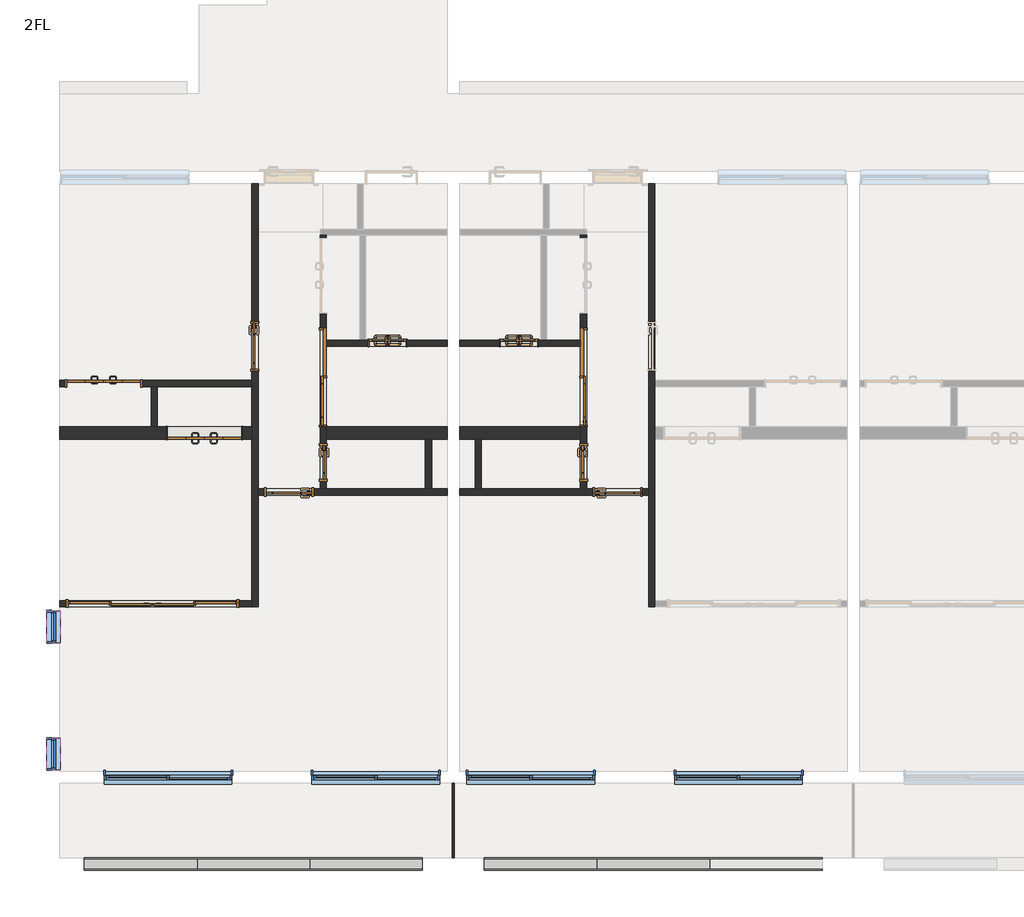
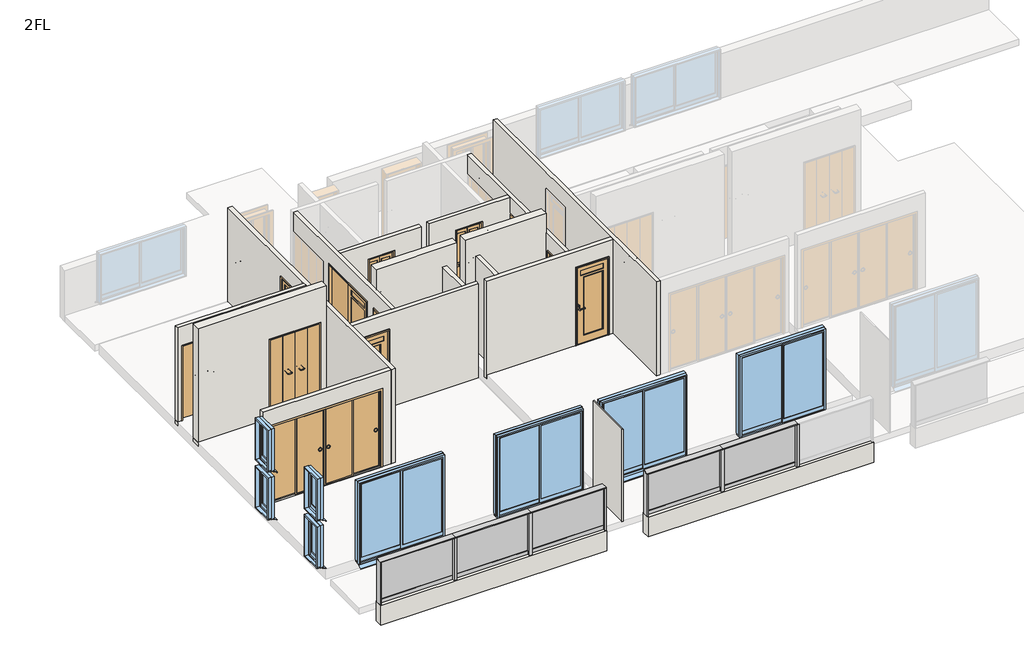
# One storey, part 1 of 3: 19 walls, 12 doors, 12 members, 8 windows, 5 plates.
"""IFC4 building model written with IfcOpenShell, lengths in millimetres."""

from ifc_helpers import new_model, si_unit, frame, origin, place, context, project, spatial, polyline, outline, extrude, faceted_brep, transform, mapped, element, save
from components import door_1200x2000_98cacc9b, door_1200x2000_6a144d60, door_1600x2000_09a7ee27, door_1600x2000_1f5bdc43, door_2800x2000_670b855b, door_600x2000_7f2747f4, door_600x2000_6a266bef, door_600x2000_8ea70a65, door_600x2000_94bb9c3c, door_800x2000_13e9f519, door_800x2000_ccb03061, member_25x150_3f8205e2, member_25x150_e252ec85, member_25x150_8b8be5b9, member_70x150_851c8a9b, plate_5aac5250, plate_977e9fc7, window_2000x2000_f1ff98da, window_450x1000_e0a5e2da, window_450x1000_1cddc73c

model = new_model("IFC4")

# Units and contexts
model_context = context("Model", 3, world=origin())
ifc_project = project(units=[si_unit("LENGTHUNIT", "METRE", prefix="MILLI")], contexts=[model_context])

# Site, building, storey
site = spatial("IfcSite", under=ifc_project)
building = spatial("IfcBuilding", under=site)
storey = spatial("IfcBuildingStorey", under=building, Name="2FL", Elevation=4000.0)

# Doors
placement = place(None, origin())
door_1200x2000_shape = door_1200x2000_98cacc9b(model_context)
element("IfcDoor", 1, ObjectType="木製折戸 : 1200x2000", at=placement, inside=storey, context=model_context, shape_type="MappedRepresentation", body=[
    mapped(door_1200x2000_shape, transform((-8741.2187246, -9820.1171638, 4100.0), x_axis=(-1.0, 0.0, 0.0), y_axis=(0.0, -1.0, 0.0), z_axis=(0.0, 0.0, 1.0))),
])
door_1200x2000_2_shape = door_1200x2000_6a144d60(model_context)
element("IfcDoor", 2, ObjectType="木製折戸 : 1200x2000", at=placement, inside=storey, context=model_context, shape_type="MappedRepresentation", body=[
    mapped(door_1200x2000_2_shape, transform((-10366.2187246, -9020.1171638, 4000.0), x_axis=(1.0, 0.0, 0.0), y_axis=(0.0, 1.0, 0.0), z_axis=(0.0, 0.0, 1.0))),
])
door_1600x2000_shape = door_1600x2000_09a7ee27(model_context)
element("IfcDoor", 3, ObjectType="片引戸CL2017 : 1600x2000", at=placement, inside=storey, context=model_context, shape_type="MappedRepresentation", body=[
    mapped(door_1600x2000_shape, transform((-6828.7187246, -8920.1171638, 4100.0), x_axis=(0.0, -1.0, 0.0), y_axis=(1.0, 0.0, 0.0), z_axis=(0.0, 0.0, 1.0))),
])
door_1600x2000_2_shape = door_1600x2000_1f5bdc43(model_context)
element("IfcDoor", 4, ObjectType="片引戸CL2017 : 1600x2000", at=placement, inside=storey, context=model_context, shape_type="MappedRepresentation", body=[
    mapped(door_1600x2000_2_shape, transform((-2628.7187246, -8920.1171638, 4100.0), x_axis=(0.0, -1.0, 0.0), y_axis=(1.0, 0.0, 0.0), z_axis=(0.0, 0.0, 1.0))),
])
door_2800x2000_shape = door_2800x2000_670b855b(model_context)
element("IfcDoor", 5, ObjectType="引違い 4 枚 2 溝_襖 : 2800x2000", at=placement, inside=storey, context=model_context, shape_type="MappedRepresentation", body=[
    mapped(door_2800x2000_shape, transform((-9573.1832207, -12570.1171638, 4100.0), x_axis=(1.0, 0.0, 0.0), y_axis=(0.0, 1.0, 0.0), z_axis=(0.0, 0.0, 1.0))),
])
door_600x2000_shape = door_600x2000_7f2747f4(model_context)
element("IfcDoor", 6, ObjectType="片開き戸CL2058 : 600x2000", at=placement, inside=storey, context=model_context, shape_type="MappedRepresentation", body=[
    mapped(door_600x2000_shape, transform((-6828.7187246, -10295.1171638, 4100.0), x_axis=(0.0, -1.0, 0.0), y_axis=(1.0, 0.0, 0.0), z_axis=(0.0, 0.0, 1.0))),
])
door_600x2000_2_shape = door_600x2000_6a266bef(model_context)
element("IfcDoor", 7, ObjectType="浴室折戸 : 600x2000", at=placement, inside=storey, context=model_context, shape_type="MappedRepresentation", body=[
    mapped(door_600x2000_2_shape, transform((-5788.7187246, -8370.1171638, 4100.0), x_axis=(1.0, 0.0, 0.0), y_axis=(0.0, 1.0, 0.0), z_axis=(0.0, 0.0, 1.0))),
])
door_600x2000_3_shape = door_600x2000_8ea70a65(model_context)
element("IfcDoor", 8, ObjectType="片開き戸CL2058 : 600x2000", at=placement, inside=storey, context=model_context, shape_type="MappedRepresentation", body=[
    mapped(door_600x2000_3_shape, transform((-2628.7187246, -10295.1171638, 4100.0), x_axis=(0.0, -1.0, 0.0), y_axis=(1.0, 0.0, 0.0), z_axis=(0.0, 0.0, 1.0))),
])
door_600x2000_4_shape = door_600x2000_94bb9c3c(model_context)
element("IfcDoor", 9, ObjectType="浴室折戸 : 600x2000", at=placement, inside=storey, context=model_context, shape_type="MappedRepresentation", body=[
    mapped(door_600x2000_4_shape, transform((-3668.7187246, -8370.1171638, 4100.0), x_axis=(-1.0, 0.0, 0.0), y_axis=(0.0, -1.0, 0.0), z_axis=(0.0, 0.0, 1.0))),
])
door_800x2000_shape = door_800x2000_13e9f519(model_context)
element("IfcDoor", 10, ObjectType="片開き戸CL2058 : 800x2000", at=placement, inside=storey, context=model_context, shape_type="MappedRepresentation", body=[
    mapped(door_800x2000_shape, transform((-7928.7187246, -8420.1171638, 4100.0), x_axis=(0.0, -1.0, 0.0), y_axis=(1.0, 0.0, 0.0), z_axis=(0.0, 0.0, 1.0))),
])
element("IfcDoor", 11, ObjectType="片開き戸CL2058 : 800x2000", at=placement, inside=storey, context=model_context, shape_type="MappedRepresentation", body=[
    mapped(door_800x2000_shape, transform((-2078.7187246, -10770.1171638, 4100.0), x_axis=(1.0, 0.0, 0.0), y_axis=(0.0, 1.0, 0.0), z_axis=(0.0, 0.0, 1.0))),
])
door_800x2000_2_shape = door_800x2000_ccb03061(model_context)
element("IfcDoor", 12, ObjectType="片開き戸CL2058 : 800x2000", at=placement, inside=storey, context=model_context, shape_type="MappedRepresentation", body=[
    mapped(door_800x2000_2_shape, transform((-7378.7187246, -10770.1171638, 4100.0), x_axis=(-1.0, 0.0, 0.0), y_axis=(0.0, -1.0, 0.0), z_axis=(0.0, 0.0, 1.0))),
])

# Members
member_25x150_shape = member_25x150_3f8205e2(model_context)
element("IfcMember", 13, ObjectType="長方形のマリオン : 25x150", at=placement, inside=storey, context=model_context, shape_type="MappedRepresentation", body=[
    mapped(member_25x150_shape, transform((-5228.7187246, -16770.1171638, 4000.0), x_axis=(1.0, 0.0, 0.0), y_axis=(0.0, -1.0, 0.0), z_axis=(0.0, 0.0, -1.0))),
])
element("IfcMember", 14, ObjectType="長方形のマリオン : 25x150", at=placement, inside=storey, context=model_context, shape_type="MappedRepresentation", body=[
    mapped(member_25x150_shape, transform((-10678.7187246, -16770.1171638, 5075.0), x_axis=(-1.0, 0.0, 0.0), y_axis=(0.0, -1.0, 0.0), z_axis=(0.0, 0.0, 1.0))),
])
element("IfcMember", 15, ObjectType="長方形のマリオン : 25x150", at=placement, inside=storey, context=model_context, shape_type="MappedRepresentation", body=[
    mapped(member_25x150_shape, transform((-4228.7187246, -16770.1171638, 5075.0), x_axis=(-1.0, 0.0, 0.0), y_axis=(0.0, -1.0, 0.0), z_axis=(0.0, 0.0, 1.0))),
])
member_25x150_2_shape = member_25x150_e252ec85(model_context)
element("IfcMember", 16, ObjectType="長方形のマリオン : 25x150", at=placement, inside=storey, context=model_context, shape_type="MappedRepresentation", body=[
    mapped(member_25x150_2_shape, transform((-5228.7187246, -16770.1171638, 5100.0), x_axis=(0.0, 0.0, 1.0), y_axis=(0.0, -1.0, 0.0), z_axis=(1.0, 0.0, 0.0))),
])
element("IfcMember", 17, ObjectType="長方形のマリオン : 25x150", at=placement, inside=storey, context=model_context, shape_type="MappedRepresentation", body=[
    mapped(member_25x150_2_shape, transform((-8862.0520579, -16770.1171638, 5100.0), x_axis=(0.0, 0.0, 1.0), y_axis=(0.0, -1.0, 0.0), z_axis=(1.0, 0.0, 0.0))),
])
element("IfcMember", 18, ObjectType="長方形のマリオン : 25x150", at=placement, inside=storey, context=model_context, shape_type="MappedRepresentation", body=[
    mapped(member_25x150_2_shape, transform((-2412.0520579, -16770.1171638, 5100.0), x_axis=(0.0, 0.0, 1.0), y_axis=(0.0, -1.0, 0.0), z_axis=(1.0, 0.0, 0.0))),
])
member_25x150_3_shape = member_25x150_8b8be5b9(model_context)
element("IfcMember", 19, ObjectType="長方形のマリオン : 25x150", at=placement, inside=storey, context=model_context, shape_type="MappedRepresentation", body=[
    mapped(member_25x150_3_shape, transform((-7045.3853914, -16770.1171638, 5100.0), x_axis=(0.0, 0.0, 1.0), y_axis=(0.0, -1.0, 0.0), z_axis=(1.0, 0.0, 0.0))),
])
element("IfcMember", 20, ObjectType="長方形のマリオン : 25x150", at=placement, inside=storey, context=model_context, shape_type="MappedRepresentation", body=[
    mapped(member_25x150_3_shape, transform((-595.3853914, -16770.1171638, 5100.0), x_axis=(0.0, 0.0, 1.0), y_axis=(0.0, -1.0, 0.0), z_axis=(1.0, 0.0, 0.0))),
])
member_70x150_shape = member_70x150_851c8a9b(model_context)
element("IfcMember", 21, ObjectType="長方形のマリオン : 70x150", at=placement, inside=storey, context=model_context, shape_type="MappedRepresentation", body=[
    mapped(member_70x150_shape, transform((-8862.0520579, -16770.1171638, 4000.0), x_axis=(1.0, 0.0, 0.0), y_axis=(0.0, -1.0, 0.0), z_axis=(0.0, 0.0, -1.0))),
])
element("IfcMember", 22, ObjectType="長方形のマリオン : 70x150", at=placement, inside=storey, context=model_context, shape_type="MappedRepresentation", body=[
    mapped(member_70x150_shape, transform((-7045.3853914, -16770.1171638, 4000.0), x_axis=(1.0, 0.0, 0.0), y_axis=(0.0, -1.0, 0.0), z_axis=(0.0, 0.0, -1.0))),
])
element("IfcMember", 23, ObjectType="長方形のマリオン : 70x150", at=placement, inside=storey, context=model_context, shape_type="MappedRepresentation", body=[
    mapped(member_70x150_shape, transform((-2412.0520579, -16770.1171638, 4000.0), x_axis=(1.0, 0.0, 0.0), y_axis=(0.0, -1.0, 0.0), z_axis=(0.0, 0.0, -1.0))),
])
element("IfcMember", 24, ObjectType="長方形のマリオン : 70x150", at=placement, inside=storey, context=model_context, shape_type="MappedRepresentation", body=[
    mapped(member_70x150_shape, transform((-595.3853914, -16770.1171638, 4000.0), x_axis=(1.0, 0.0, 0.0), y_axis=(0.0, -1.0, 0.0), z_axis=(0.0, 0.0, -1.0))),
])

# Plates
plate_shape = plate_5aac5250(model_context)
element("IfcPlate", 25, ObjectType="r パネル FIX 下框付 : 框 H100", at=placement, inside=storey, context=model_context, shape_type="MappedRepresentation", body=[
    mapped(plate_shape, transform((-9775.3853913, -16770.1171638, 4000.0), x_axis=(1.0, 0.0, 0.0), y_axis=(0.0, 1.0, 0.0), z_axis=(0.0, 0.0, 1.0))),
])
element("IfcPlate", 26, ObjectType="r パネル FIX 下框付 : 框 H100", at=placement, inside=storey, context=model_context, shape_type="MappedRepresentation", body=[
    mapped(plate_shape, transform((-6132.052058, -16770.1171638, 4000.0), x_axis=(1.0, 0.0, 0.0), y_axis=(0.0, 1.0, 0.0), z_axis=(0.0, 0.0, 1.0))),
])
element("IfcPlate", 27, ObjectType="r パネル FIX 下框付 : 框 H100", at=placement, inside=storey, context=model_context, shape_type="MappedRepresentation", body=[
    mapped(plate_shape, transform((-3325.3853913, -16770.1171638, 4000.0), x_axis=(1.0, 0.0, 0.0), y_axis=(0.0, 1.0, 0.0), z_axis=(0.0, 0.0, 1.0))),
])
plate_2_shape = plate_977e9fc7(model_context)
element("IfcPlate", 28, ObjectType="r パネル FIX 下框付 : 框 H100", at=placement, inside=storey, context=model_context, shape_type="MappedRepresentation", body=[
    mapped(plate_2_shape, transform((-7953.7187246, -16770.1171638, 4000.0), x_axis=(1.0, 0.0, 0.0), y_axis=(0.0, 1.0, 0.0), z_axis=(0.0, 0.0, 1.0))),
])
element("IfcPlate", 29, ObjectType="r パネル FIX 下框付 : 框 H100", at=placement, inside=storey, context=model_context, shape_type="MappedRepresentation", body=[
    mapped(plate_2_shape, transform((-1503.7187246, -16770.1171638, 4000.0), x_axis=(1.0, 0.0, 0.0), y_axis=(0.0, 1.0, 0.0), z_axis=(0.0, 0.0, 1.0))),
])

# Walls
element("IfcWall", 30, ObjectType="(R)RC200", at=placement, inside=storey, context=model_context, shape_type="Brep", body=[
    faceted_brep([(-11078.7187246, -9920.1171638, 4000.0), (-7978.7187246, -9920.1171638, 4000.0), (-7978.7187246, -9920.1171638, 7000.0), (-11078.7187246, -9920.1171638, 7000.0), (-9361.2187246, -9920.1171638, 6120.0), (-8121.2187246, -9920.1171638, 6120.0), (-8121.2187246, -9920.1171638, 4100.0), (-9361.2187246, -9920.1171638, 4100.0), (-11078.7187246, -9720.1171638, 4000.0), (-11078.7187246, -9720.1171638, 7000.0), (-7978.7187246, -9720.1171638, 7000.0), (-7978.7187246, -9720.1171638, 4000.0), (-9503.7187246, -9720.1171638, 4000.0), (-9603.7187246, -9720.1171638, 4000.0), (-9361.2187246, -9720.1171638, 6120.0), (-9361.2187246, -9720.1171638, 4100.0), (-8121.2187246, -9720.1171638, 4100.0), (-8121.2187246, -9720.1171638, 6120.0)], [[[0, 1, 2, 3], [4, 5, 6, 7]], [[8, 9, 10, 11, 12, 13], [14, 15, 16, 17]], [[1, 0, 8, 13, 12, 11]], [[3, 2, 10, 9]], [[2, 1, 11, 10]], [[15, 14, 4, 7]], [[16, 15, 7, 6]], [[17, 16, 6, 5]], [[14, 17, 5, 4]], [[0, 3, 9, 8]]]),
])
element("IfcWall", 31, ObjectType="(R)RC200", at=placement, inside=storey, context=model_context, shape_type="Brep", body=[
    faceted_brep([(-6778.7187246, -9920.1171638, 4000.0), (-5178.7187246, -9920.1171638, 4000.0), (-5078.7187246, -9920.1171638, 4000.0), (-4828.7187246, -9920.1171638, 4000.0), (-4828.7187246, -9920.1171638, 7000.0), (-6778.7187246, -9920.1171638, 7000.0), (-6778.7187246, -9720.1171638, 4000.0), (-6778.7187246, -9720.1171638, 4100.0), (-6778.7187246, -9720.1171638, 6100.0), (-6778.7187246, -9720.1171638, 7000.0), (-4828.7187246, -9720.1171638, 7000.0), (-4828.7187246, -9720.1171638, 4000.0)], [[[0, 1, 2, 3, 4, 5]], [[6, 7, 8, 9, 10, 11]], [[3, 2, 1, 0, 6, 11]], [[5, 4, 10, 9]], [[0, 5, 9, 8, 7, 6]], [[4, 3, 11, 10]]]),
])
element("IfcWall", 32, ObjectType="(R)RC200", at=placement, inside=storey, context=model_context, shape_type="Brep", body=[
    faceted_brep([(-2678.7187246, -9720.1171638, 4000.0), (-4628.7187246, -9720.1171638, 4000.0), (-4628.7187246, -9720.1171638, 7000.0), (-2678.7187246, -9720.1171638, 7000.0), (-2678.7187246, -9720.1171638, 6100.0), (-2678.7187246, -9720.1171638, 4100.0), (-2678.7187246, -9920.1171638, 4000.0), (-2678.7187246, -9920.1171638, 7000.0), (-4628.7187246, -9920.1171638, 7000.0), (-4628.7187246, -9920.1171638, 4000.0), (-4378.7187246, -9920.1171638, 4000.0), (-4278.7187246, -9920.1171638, 4000.0)], [[[0, 1, 2, 3, 4, 5]], [[6, 7, 8, 9, 10, 11]], [[1, 0, 6, 11, 10, 9]], [[3, 2, 8, 7]], [[0, 5, 4, 3, 7, 6]], [[2, 1, 9, 8]]]),
])
element("IfcWall", 33, ObjectType="(R)RC200", at=placement, inside=storey, context=model_context, shape_type="SweptSolid", body=[
    extrude(outline(polyline([(-5228.7187246, -16870.1171638), (-10678.7187246, -16870.1171638), (-10678.7187246, -16670.1171638), (-5228.7187246, -16670.1171638), (-5228.7187246, -16870.1171638)])), frame((0.0, 0.0, 3500.0), z_axis=(0.0, 0.0, 1.0), x_axis=(1.0, 0.0, 0.0)), (0.0, 0.0, 1.0), 500.0),
])
element("IfcWall", 34, ObjectType="(R)RC200", at=placement, inside=storey, context=model_context, shape_type="SweptSolid", body=[
    extrude(outline(polyline([(1221.2812754, -16870.1171638), (-4228.7187246, -16870.1171638), (-4228.7187246, -16670.1171638), (1221.2812754, -16670.1171638), (1221.2812754, -16870.1171638)])), frame((0.0, 0.0, 3500.0), z_axis=(0.0, 0.0, 1.0), x_axis=(1.0, 0.0, 0.0)), (0.0, 0.0, 1.0), 500.0),
])
element("IfcWall", 35, ObjectType="(F)30", at=placement, inside=storey, context=model_context, shape_type="SweptSolid", body=[
    extrude(outline(polyline([(-4743.7187246, -16670.1171638), (-4743.7187246, -15470.1171638), (-4713.7187246, -15470.1171638), (-4713.7187246, -16670.1171638), (-4743.7187246, -16670.1171638)])), frame((0.0, 0.0, 3950.0), z_axis=(0.0, 0.0, 1.0), x_axis=(1.0, 0.0, 0.0)), (0.0, 0.0, 1.0), 2350.0),
])
element("IfcWall", 36, ObjectType="(L1)LGS100", at=placement, inside=storey, context=model_context, shape_type="Brep", body=[
    faceted_brep([(-7878.7187246, -12620.1171638, 4000.0), (-7878.7187246, -10820.1171638, 4000.0), (-7878.7187246, -10720.1171638, 4000.0), (-7878.7187246, -5800.1171638, 4000.0), (-7878.7187246, -5800.1171638, 6500.0), (-7878.7187246, -10720.1171638, 6500.0), (-7878.7187246, -10820.1171638, 6500.0), (-7878.7187246, -12620.1171638, 6500.0), (-7878.7187246, -8820.1171638, 4100.0), (-7878.7187246, -8820.1171638, 6100.0), (-7878.7187246, -8020.1171638, 6100.0), (-7878.7187246, -8020.1171638, 4100.0), (-7978.7187246, -12620.1171638, 4000.0), (-7978.7187246, -12620.1171638, 6500.0), (-7978.7187246, -12520.1171638, 6500.0), (-7978.7187246, -9070.1171638, 6500.0), (-7978.7187246, -8970.1171638, 6500.0), (-7978.7187246, -5800.1171638, 6500.0), (-7978.7187246, -5800.1171638, 4000.0), (-7978.7187246, -8970.1171638, 4000.0), (-7978.7187246, -9070.1171638, 4000.0), (-7978.7187246, -9720.1171638, 4000.0), (-7978.7187246, -9920.1171638, 4000.0), (-7978.7187246, -12520.1171638, 4000.0), (-7978.7187246, -8820.1171638, 4100.0), (-7978.7187246, -8020.1171638, 4100.0), (-7978.7187246, -8020.1171638, 6100.0), (-7978.7187246, -8820.1171638, 6100.0)], [[[0, 1, 2, 3, 4, 5, 6, 7], [8, 9, 10, 11]], [[12, 13, 14, 15, 16, 17, 18, 19, 20, 21, 22, 23], [24, 25, 26, 27]], [[3, 2, 1, 0, 12, 23, 22, 21, 20, 19, 18]], [[7, 6, 5, 4, 17, 16, 15, 14, 13]], [[0, 7, 13, 12]], [[9, 8, 24, 27]], [[10, 9, 27, 26]], [[11, 10, 26, 25]], [[8, 11, 25, 24]], [[4, 3, 18, 17]]]),
])
element("IfcWall", 37, ObjectType="(L1)LGS100", at=placement, inside=storey, context=model_context, shape_type="Brep", body=[
    faceted_brep([(-6778.7187246, -6630.1171638, 6500.0), (-6778.7187246, -8320.1171638, 6500.0), (-6778.7187246, -8420.1171638, 6500.0), (-6778.7187246, -10720.1171638, 6500.0), (-6778.7187246, -10720.1171638, 4000.0), (-6778.7187246, -9920.1171638, 4000.0), (-6778.7187246, -9720.1171638, 4000.0), (-6778.7187246, -8420.1171638, 4000.0), (-6778.7187246, -8320.1171638, 4000.0), (-6778.7187246, -7900.1171638, 4000.0), (-6778.7187246, -7900.1171638, 6020.0), (-6778.7187246, -6660.1171638, 6020.0), (-6778.7187246, -6660.1171638, 4000.0), (-6778.7187246, -6630.1171638, 4000.0), (-6778.7187246, -10595.1171638, 4100.0), (-6778.7187246, -10595.1171638, 6100.0), (-6778.7187246, -9995.1171638, 6100.0), (-6778.7187246, -9995.1171638, 4100.0), (-6778.7187246, -9720.1171638, 4100.0), (-6778.7187246, -9720.1171638, 6100.0), (-6778.7187246, -8120.1171638, 6100.0), (-6778.7187246, -8120.1171638, 4100.0), (-6878.7187246, -10720.1171638, 6500.0), (-6878.7187246, -6630.1171638, 6500.0), (-6878.7187246, -6630.1171638, 4000.0), (-6878.7187246, -6660.1171638, 4000.0), (-6878.7187246, -6660.1171638, 6020.0), (-6878.7187246, -7900.1171638, 6020.0), (-6878.7187246, -7900.1171638, 4000.0), (-6878.7187246, -10720.1171638, 4000.0), (-6878.7187246, -10595.1171638, 4100.0), (-6878.7187246, -9995.1171638, 4100.0), (-6878.7187246, -9995.1171638, 6100.0), (-6878.7187246, -10595.1171638, 6100.0), (-6878.7187246, -9720.1171638, 6100.0), (-6878.7187246, -9720.1171638, 4100.0), (-6878.7187246, -8120.1171638, 4100.0), (-6878.7187246, -8120.1171638, 6100.0)], [[[0, 1, 2, 3, 4, 5, 6, 7, 8, 9, 10, 11, 12, 13], [14, 15, 16, 17], [18, 19, 20, 21]], [[22, 23, 24, 25, 26, 27, 28, 29], [30, 31, 32, 33], [34, 35, 36, 37]], [[4, 29, 28, 9, 8, 7, 6, 5]], [[24, 13, 12, 25]], [[3, 2, 1, 0, 23, 22]], [[4, 3, 22, 29]], [[0, 13, 24, 23]], [[15, 14, 30, 33]], [[16, 15, 33, 32]], [[17, 16, 32, 31]], [[14, 17, 31, 30]], [[18, 35, 34, 19]], [[19, 34, 37, 20]], [[20, 37, 36, 21]], [[35, 18, 21, 36]], [[12, 11, 26, 25]], [[10, 9, 28, 27]], [[11, 10, 27, 26]]]),
])
element("IfcWall", 38, ObjectType="(L1)LGS100", at=placement, inside=storey, context=model_context, shape_type="Brep", body=[
    faceted_brep([(-6778.7187246, -8420.1171638, 4000.0), (-4828.7187246, -8420.1171638, 4000.0), (-4828.7187246, -8420.1171638, 6500.0), (-6778.7187246, -8420.1171638, 6500.0), (-5468.7187246, -8420.1171638, 6120.0), (-5468.7187246, -8420.1171638, 4100.0), (-6108.7187246, -8420.1171638, 4100.0), (-6108.7187246, -8420.1171638, 6120.0), (-6778.7187246, -8320.1171638, 4000.0), (-6778.7187246, -8320.1171638, 6500.0), (-6238.7187246, -8320.1171638, 6500.0), (-6138.7187246, -8320.1171638, 6500.0), (-4828.7187246, -8320.1171638, 6500.0), (-4828.7187246, -8320.1171638, 4000.0), (-6138.7187246, -8320.1171638, 4000.0), (-6238.7187246, -8320.1171638, 4000.0), (-5468.7187246, -8320.1171638, 6120.0), (-6108.7187246, -8320.1171638, 6120.0), (-6108.7187246, -8320.1171638, 4100.0), (-5468.7187246, -8320.1171638, 4100.0)], [[[0, 1, 2, 3], [4, 5, 6, 7]], [[8, 9, 10, 11, 12, 13, 14, 15], [16, 17, 18, 19]], [[1, 0, 8, 15, 14, 13]], [[3, 2, 12, 11, 10, 9]], [[0, 3, 9, 8]], [[5, 4, 16, 19]], [[6, 5, 19, 18]], [[7, 6, 18, 17]], [[4, 7, 17, 16]], [[2, 1, 13, 12]]]),
])
element("IfcWall", 39, ObjectType="(L1)LGS100", at=placement, inside=storey, context=model_context, shape_type="Brep", body=[
    faceted_brep([(-7878.7187246, -10820.1171638, 4000.0), (-4828.7187246, -10820.1171638, 4000.0), (-4828.7187246, -10820.1171638, 6500.0), (-7878.7187246, -10820.1171638, 6500.0), (-7778.7187246, -10820.1171638, 4100.0), (-7778.7187246, -10820.1171638, 6100.0), (-6978.7187246, -10820.1171638, 6100.0), (-6978.7187246, -10820.1171638, 4100.0), (-7878.7187246, -10720.1171638, 4000.0), (-7878.7187246, -10720.1171638, 6500.0), (-6878.7187246, -10720.1171638, 6500.0), (-6778.7187246, -10720.1171638, 6500.0), (-5178.7187246, -10720.1171638, 6500.0), (-5078.7187246, -10720.1171638, 6500.0), (-4828.7187246, -10720.1171638, 6500.0), (-4828.7187246, -10720.1171638, 4000.0), (-5078.7187246, -10720.1171638, 4000.0), (-5178.7187246, -10720.1171638, 4000.0), (-6778.7187246, -10720.1171638, 4000.0), (-6878.7187246, -10720.1171638, 4000.0), (-7778.7187246, -10720.1171638, 4100.0), (-6978.7187246, -10720.1171638, 4100.0), (-6978.7187246, -10720.1171638, 6100.0), (-7778.7187246, -10720.1171638, 6100.0)], [[[0, 1, 2, 3], [4, 5, 6, 7]], [[8, 9, 10, 11, 12, 13, 14, 15, 16, 17, 18, 19], [20, 21, 22, 23]], [[1, 0, 8, 19, 18, 17, 16, 15]], [[3, 2, 14, 13, 12, 11, 10, 9]], [[0, 3, 9, 8]], [[5, 4, 20, 23]], [[6, 5, 23, 22]], [[7, 6, 22, 21]], [[4, 7, 21, 20]], [[2, 1, 15, 14]]]),
])
element("IfcWall", 40, ObjectType="(L1)LGS100", at=placement, inside=storey, context=model_context, shape_type="SweptSolid", body=[
    extrude(outline(polyline([(-5078.7187246, -9920.1171638), (-5078.7187246, -10720.1171638), (-5178.7187246, -10720.1171638), (-5178.7187246, -9920.1171638), (-5078.7187246, -9920.1171638)])), frame((0.0, 0.0, 4000.0), z_axis=(0.0, 0.0, 1.0), x_axis=(1.0, 0.0, 0.0)), (0.0, 0.0, 1.0), 2500.0),
])
element("IfcWall", 41, ObjectType="(L1)LGS100", at=placement, inside=storey, context=model_context, shape_type="Brep", body=[
    faceted_brep([(-11078.7187246, -9070.1171638, 4000.0), (-10986.2187246, -9070.1171638, 4000.0), (-10986.2187246, -9070.1171638, 6020.0), (-9746.2187246, -9070.1171638, 6020.0), (-9746.2187246, -9070.1171638, 4000.0), (-9603.7187246, -9070.1171638, 4000.0), (-9503.7187246, -9070.1171638, 4000.0), (-7978.7187246, -9070.1171638, 4000.0), (-7978.7187246, -9070.1171638, 6500.0), (-9503.7187246, -9070.1171638, 6500.0), (-9603.7187246, -9070.1171638, 6500.0), (-11078.7187246, -9070.1171638, 6500.0), (-10986.2187246, -8970.1171638, 6020.0), (-10986.2187246, -8970.1171638, 4000.0), (-11078.7187246, -8970.1171638, 4000.0), (-11078.7187246, -8970.1171638, 6500.0), (-7978.7187246, -8970.1171638, 6500.0), (-7978.7187246, -8970.1171638, 4000.0), (-9746.2187246, -8970.1171638, 4000.0), (-9746.2187246, -8970.1171638, 6020.0)], [[[0, 1, 2, 3, 4, 5, 6, 7, 8, 9, 10, 11]], [[12, 13, 14, 15, 16, 17, 18, 19]], [[18, 17, 7, 6, 5, 4]], [[14, 13, 1, 0]], [[11, 10, 9, 8, 16, 15]], [[8, 7, 17, 16]], [[4, 3, 19, 18]], [[2, 1, 13, 12]], [[3, 2, 12, 19]], [[0, 11, 15, 14]]]),
])
element("IfcWall", 42, ObjectType="(L1)LGS100", at=placement, inside=storey, context=model_context, shape_type="SweptSolid", body=[
    extrude(outline(polyline([(-9503.7187246, -9070.1171638), (-9503.7187246, -9720.1171638), (-9603.7187246, -9720.1171638), (-9603.7187246, -9070.1171638), (-9503.7187246, -9070.1171638)])), frame((0.0, 0.0, 4000.0), z_axis=(0.0, 0.0, 1.0), x_axis=(1.0, 0.0, 0.0)), (0.0, 0.0, 1.0), 2500.0),
])
element("IfcWall", 43, ObjectType="(L1)LGS100", at=placement, inside=storey, context=model_context, shape_type="SweptSolid", body=[
    extrude(outline(polyline([(4000.0, -11078.7187246), (4000.0, -7978.7187246), (6500.0, -7978.7187246), (6500.0, -11078.7187246), (4000.0, -11078.7187246)]), holes=[polyline([(6100.0, -8178.7187246), (4100.0, -8178.7187246), (4100.0, -10978.7187246), (6100.0, -10978.7187246), (6100.0, -8178.7187246)])]), frame((0.0, -12620.1171638, 0.0), z_axis=(0.0, 1.0, 0.0), x_axis=(0.0, 0.0, 1.0)), (0.0, 0.0, 1.0), 100.0),
])
element("IfcWall", 44, ObjectType="(L1)LGS100", at=placement, inside=storey, context=model_context, shape_type="Brep", body=[
    faceted_brep([(-1478.7187246, -12620.1171638, 4000.0), (-1478.7187246, -12520.1171638, 4000.0), (-1478.7187246, -9920.1171638, 4000.0), (-1478.7187246, -9720.1171638, 4000.0), (-1478.7187246, -9070.1171638, 4000.0), (-1478.7187246, -8970.1171638, 4000.0), (-1478.7187246, -5800.1171638, 4000.0), (-1478.7187246, -5800.1171638, 6500.0), (-1478.7187246, -8970.1171638, 6500.0), (-1478.7187246, -9070.1171638, 6500.0), (-1478.7187246, -12520.1171638, 6500.0), (-1478.7187246, -12620.1171638, 6500.0), (-1478.7187246, -8820.1171638, 4100.0), (-1478.7187246, -8820.1171638, 6100.0), (-1478.7187246, -8020.1171638, 6100.0), (-1478.7187246, -8020.1171638, 4100.0), (-1578.7187246, -12620.1171638, 4000.0), (-1578.7187246, -12620.1171638, 6500.0), (-1578.7187246, -10820.1171638, 6500.0), (-1578.7187246, -10720.1171638, 6500.0), (-1578.7187246, -5800.1171638, 6500.0), (-1578.7187246, -5800.1171638, 4000.0), (-1578.7187246, -10720.1171638, 4000.0), (-1578.7187246, -10820.1171638, 4000.0), (-1578.7187246, -8820.1171638, 4100.0), (-1578.7187246, -8020.1171638, 4100.0), (-1578.7187246, -8020.1171638, 6100.0), (-1578.7187246, -8820.1171638, 6100.0)], [[[0, 1, 2, 3, 4, 5, 6, 7, 8, 9, 10, 11], [12, 13, 14, 15]], [[16, 17, 18, 19, 20, 21, 22, 23], [24, 25, 26, 27]], [[6, 5, 4, 3, 2, 1, 0, 16, 23, 22, 21]], [[11, 10, 9, 8, 7, 20, 19, 18, 17]], [[13, 12, 24, 27]], [[14, 13, 27, 26]], [[15, 14, 26, 25]], [[12, 15, 25, 24]], [[0, 11, 17, 16]], [[7, 6, 21, 20]]]),
])
element("IfcWall", 45, ObjectType="(L1)LGS100", at=placement, inside=storey, context=model_context, shape_type="Brep", body=[
    faceted_brep([(-2578.7187246, -6630.1171638, 6500.0), (-2578.7187246, -10720.1171638, 6500.0), (-2578.7187246, -10720.1171638, 4000.0), (-2578.7187246, -7900.1171638, 4000.0), (-2578.7187246, -7900.1171638, 6020.0), (-2578.7187246, -6660.1171638, 6020.0), (-2578.7187246, -6660.1171638, 4000.0), (-2578.7187246, -6630.1171638, 4000.0), (-2578.7187246, -10595.1171638, 4100.0), (-2578.7187246, -10595.1171638, 6100.0), (-2578.7187246, -9995.1171638, 6100.0), (-2578.7187246, -9995.1171638, 4100.0), (-2578.7187246, -9720.1171638, 4100.0), (-2578.7187246, -9720.1171638, 6100.0), (-2578.7187246, -8120.1171638, 6100.0), (-2578.7187246, -8120.1171638, 4100.0), (-2678.7187246, -10720.1171638, 6500.0), (-2678.7187246, -8420.1171638, 6500.0), (-2678.7187246, -8320.1171638, 6500.0), (-2678.7187246, -6630.1171638, 6500.0), (-2678.7187246, -6630.1171638, 4000.0), (-2678.7187246, -6660.1171638, 4000.0), (-2678.7187246, -6660.1171638, 6020.0), (-2678.7187246, -7900.1171638, 6020.0), (-2678.7187246, -7900.1171638, 4000.0), (-2678.7187246, -8320.1171638, 4000.0), (-2678.7187246, -8420.1171638, 4000.0), (-2678.7187246, -9720.1171638, 4000.0), (-2678.7187246, -9920.1171638, 4000.0), (-2678.7187246, -10720.1171638, 4000.0), (-2678.7187246, -10595.1171638, 4100.0), (-2678.7187246, -9995.1171638, 4100.0), (-2678.7187246, -9995.1171638, 6100.0), (-2678.7187246, -10595.1171638, 6100.0), (-2678.7187246, -9720.1171638, 6100.0), (-2678.7187246, -9720.1171638, 4100.0), (-2678.7187246, -8120.1171638, 4100.0), (-2678.7187246, -8120.1171638, 6100.0)], [[[0, 1, 2, 3, 4, 5, 6, 7], [8, 9, 10, 11], [12, 13, 14, 15]], [[16, 17, 18, 19, 20, 21, 22, 23, 24, 25, 26, 27, 28, 29], [30, 31, 32, 33], [34, 35, 36, 37]], [[6, 21, 20, 7]], [[24, 3, 2, 29, 28, 27, 26, 25]], [[1, 0, 19, 18, 17, 16]], [[9, 8, 30, 33]], [[10, 9, 33, 32]], [[11, 10, 32, 31]], [[8, 11, 31, 30]], [[12, 35, 34, 13]], [[13, 34, 37, 14]], [[14, 37, 36, 15]], [[35, 12, 15, 36]], [[6, 5, 22, 21]], [[4, 3, 24, 23]], [[5, 4, 23, 22]], [[2, 1, 16, 29]], [[0, 7, 20, 19]]]),
])
element("IfcWall", 46, ObjectType="(L1)LGS100", at=placement, inside=storey, context=model_context, shape_type="Brep", body=[
    faceted_brep([(-2678.7187246, -8320.1171638, 4000.0), (-3218.7187246, -8320.1171638, 4000.0), (-3318.7187246, -8320.1171638, 4000.0), (-4628.7187246, -8320.1171638, 4000.0), (-4628.7187246, -8320.1171638, 6500.0), (-3318.7187246, -8320.1171638, 6500.0), (-3218.7187246, -8320.1171638, 6500.0), (-2678.7187246, -8320.1171638, 6500.0), (-3988.7187246, -8320.1171638, 6120.0), (-3988.7187246, -8320.1171638, 4100.0), (-3348.7187246, -8320.1171638, 4100.0), (-3348.7187246, -8320.1171638, 6120.0), (-2678.7187246, -8420.1171638, 4000.0), (-2678.7187246, -8420.1171638, 6500.0), (-4628.7187246, -8420.1171638, 6500.0), (-4628.7187246, -8420.1171638, 4000.0), (-3988.7187246, -8420.1171638, 6120.0), (-3348.7187246, -8420.1171638, 6120.0), (-3348.7187246, -8420.1171638, 4100.0), (-3988.7187246, -8420.1171638, 4100.0)], [[[0, 1, 2, 3, 4, 5, 6, 7], [8, 9, 10, 11]], [[12, 13, 14, 15], [16, 17, 18, 19]], [[3, 2, 1, 0, 12, 15]], [[7, 6, 5, 4, 14, 13]], [[9, 8, 16, 19]], [[10, 9, 19, 18]], [[11, 10, 18, 17]], [[8, 11, 17, 16]], [[0, 7, 13, 12]], [[4, 3, 15, 14]]]),
])
element("IfcWall", 47, ObjectType="(L1)LGS100", at=placement, inside=storey, context=model_context, shape_type="Brep", body=[
    faceted_brep([(-1578.7187246, -10720.1171638, 4000.0), (-2578.7187246, -10720.1171638, 4000.0), (-2678.7187246, -10720.1171638, 4000.0), (-4278.7187246, -10720.1171638, 4000.0), (-4378.7187246, -10720.1171638, 4000.0), (-4628.7187246, -10720.1171638, 4000.0), (-4628.7187246, -10720.1171638, 6500.0), (-4378.7187246, -10720.1171638, 6500.0), (-4278.7187246, -10720.1171638, 6500.0), (-2678.7187246, -10720.1171638, 6500.0), (-2578.7187246, -10720.1171638, 6500.0), (-1578.7187246, -10720.1171638, 6500.0), (-1678.7187246, -10720.1171638, 4100.0), (-1678.7187246, -10720.1171638, 6100.0), (-2478.7187246, -10720.1171638, 6100.0), (-2478.7187246, -10720.1171638, 4100.0), (-1578.7187246, -10820.1171638, 4000.0), (-1578.7187246, -10820.1171638, 6500.0), (-4628.7187246, -10820.1171638, 6500.0), (-4628.7187246, -10820.1171638, 4000.0), (-1678.7187246, -10820.1171638, 4100.0), (-2478.7187246, -10820.1171638, 4100.0), (-2478.7187246, -10820.1171638, 6100.0), (-1678.7187246, -10820.1171638, 6100.0)], [[[0, 1, 2, 3, 4, 5, 6, 7, 8, 9, 10, 11], [12, 13, 14, 15]], [[16, 17, 18, 19], [20, 21, 22, 23]], [[5, 4, 3, 2, 1, 0, 16, 19]], [[11, 10, 9, 8, 7, 6, 18, 17]], [[13, 12, 20, 23]], [[14, 13, 23, 22]], [[15, 14, 22, 21]], [[12, 15, 21, 20]], [[0, 11, 17, 16]], [[6, 5, 19, 18]]]),
])
element("IfcWall", 48, ObjectType="(L1)LGS100", at=placement, inside=storey, context=model_context, shape_type="SweptSolid", body=[
    extrude(outline(polyline([(-4278.7187246, -9920.1171638), (-4278.7187246, -10720.1171638), (-4378.7187246, -10720.1171638), (-4378.7187246, -9920.1171638), (-4278.7187246, -9920.1171638)])), frame((0.0, 0.0, 4000.0), z_axis=(0.0, 0.0, 1.0), x_axis=(1.0, 0.0, 0.0)), (0.0, 0.0, 1.0), 2500.0),
])

# Windows
window_2000x2000_shape = window_2000x2000_f1ff98da(model_context)
element("IfcWindow", 49, ObjectType="鋼製_一般枠_引違い-二枚 : 2000x2000", at=placement, inside=storey, context=model_context, shape_type="MappedRepresentation", body=[
    mapped(window_2000x2000_shape, transform((-9328.7187246, -15370.1171638, 3200.0), x_axis=(-1.0, 0.0, 0.0), y_axis=(0.0, -1.0, 0.0), z_axis=(0.0, 0.0, 1.0))),
])
element("IfcWindow", 50, ObjectType="鋼製_一般枠_引違い-二枚 : 2000x2000", at=placement, inside=storey, context=model_context, shape_type="MappedRepresentation", body=[
    mapped(window_2000x2000_shape, transform((-5978.7187246, -15370.1171638, 3200.0), x_axis=(-1.0, 0.0, 0.0), y_axis=(0.0, -1.0, 0.0), z_axis=(0.0, 0.0, 1.0))),
])
element("IfcWindow", 51, ObjectType="鋼製_一般枠_引違い-二枚 : 2000x2000", at=placement, inside=storey, context=model_context, shape_type="MappedRepresentation", body=[
    mapped(window_2000x2000_shape, transform((-128.7187246, -15370.1171638, 3200.0), x_axis=(-1.0, 0.0, 0.0), y_axis=(0.0, -1.0, 0.0), z_axis=(0.0, 0.0, 1.0))),
])
element("IfcWindow", 52, ObjectType="鋼製_一般枠_引違い-二枚 : 2000x2000", at=placement, inside=storey, context=model_context, shape_type="MappedRepresentation", body=[
    mapped(window_2000x2000_shape, transform((-3478.7187246, -15370.1171638, 3200.0), x_axis=(-1.0, 0.0, 0.0), y_axis=(0.0, -1.0, 0.0), z_axis=(0.0, 0.0, 1.0))),
])
window_450x1000_shape = window_450x1000_e0a5e2da(model_context)
element("IfcWindow", 53, ObjectType="鋼製_一般枠_嵌殺し : 450x1000", at=placement, inside=storey, context=model_context, shape_type="MappedRepresentation", body=[
    mapped(window_450x1000_shape, transform((-11178.7187246, -14995.1171638, 3010.0), x_axis=(0.0, -1.0, 0.0), y_axis=(1.0, 0.0, 0.0), z_axis=(0.0, 0.0, 1.0))),
])
element("IfcWindow", 54, ObjectType="鋼製_一般枠_嵌殺し : 450x1000", at=placement, inside=storey, context=model_context, shape_type="MappedRepresentation", body=[
    mapped(window_450x1000_shape, transform((-11178.7187246, -12945.1171638, 3010.0), x_axis=(0.0, -1.0, 0.0), y_axis=(1.0, 0.0, 0.0), z_axis=(0.0, 0.0, 1.0))),
])
window_450x1000_2_shape = window_450x1000_1cddc73c(model_context)
element("IfcWindow", 55, ObjectType="鋼製_一般枠_嵌殺し : 450x1000", at=placement, inside=storey, context=model_context, shape_type="MappedRepresentation", body=[
    mapped(window_450x1000_2_shape, transform((-11178.7187246, -14995.1171638, 4230.0), x_axis=(0.0, 1.0, 0.0), y_axis=(-1.0, 0.0, 0.0), z_axis=(0.0, 0.0, 1.0))),
])
element("IfcWindow", 56, ObjectType="鋼製_一般枠_嵌殺し : 450x1000", at=placement, inside=storey, context=model_context, shape_type="MappedRepresentation", body=[
    mapped(window_450x1000_2_shape, transform((-11178.7187246, -12945.1171638, 4230.0), x_axis=(0.0, 1.0, 0.0), y_axis=(-1.0, 0.0, 0.0), z_axis=(0.0, 0.0, 1.0))),
])

save(model, "model.ifc")
